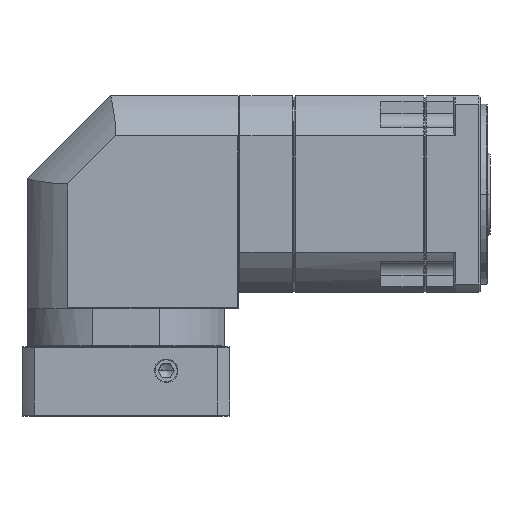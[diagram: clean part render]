
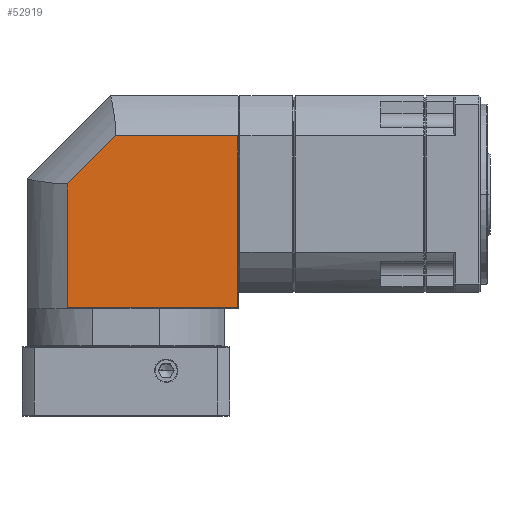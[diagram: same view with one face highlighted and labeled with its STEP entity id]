
A CAD part, top view. The second image highlights one B-rep face of the part: STEP entity #52919.
In plain terms, the highlighted planar face has unit normal (0, 0, 1).
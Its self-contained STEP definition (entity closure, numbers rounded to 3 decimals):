
#414 = LINE ( 'NONE', #106704, #6509 ) ;
#6509 = VECTOR ( 'NONE', #12856, 1000. ) ;
#9033 = LINE ( 'NONE', #35648, #84790 ) ;
#9234 = CARTESIAN_POINT ( 'NONE',  ( -56.248, -16.201, 312.56 ) ) ;
#9837 = ORIENTED_EDGE ( 'NONE', *, *, #25718, .T. ) ;
#12856 = DIRECTION ( 'NONE',  ( -1., 0., 0. ) ) ;
#19733 = VERTEX_POINT ( 'NONE', #134188 ) ;
#20529 = VERTEX_POINT ( 'NONE', #124669 ) ;
#25718 = EDGE_CURVE ( 'NONE', #35076, #20529, #414, .T. ) ;
#27689 = CARTESIAN_POINT ( 'NONE',  ( 66.467, 31.563, 312.56 ) ) ;
#35076 = VERTEX_POINT ( 'NONE', #27689 ) ;
#35648 = CARTESIAN_POINT ( 'NONE',  ( -9.133, -92.451, 312.56 ) ) ;
#48800 = DIRECTION ( 'NONE',  ( 1., 0., 0. ) ) ;
#50180 = PLANE ( 'NONE',  #101065 ) ;
#52919 = ADVANCED_FACE ( 'NONE', ( #121997 ), #50180, .T. ) ;
#53415 = ORIENTED_EDGE ( 'NONE', *, *, #113438, .T. ) ;
#54423 = VECTOR ( 'NONE', #97079, 1000. ) ;
#55805 = VERTEX_POINT ( 'NONE', #151789 ) ;
#63420 = DIRECTION ( 'NONE',  ( 0., 0., 1. ) ) ;
#66848 = DIRECTION ( 'NONE',  ( -0.707, -0.707, 0. ) ) ;
#68227 = ORIENTED_EDGE ( 'NONE', *, *, #77161, .T. ) ;
#68884 = LINE ( 'NONE', #162938, #54423 ) ;
#71955 = EDGE_LOOP ( 'NONE', ( #126541, #53415, #68227, #118086, #9837 ) ) ;
#72418 = VERTEX_POINT ( 'NONE', #133576 ) ;
#73293 = VECTOR ( 'NONE', #66848, 1000. ) ;
#76460 = LINE ( 'NONE', #9234, #158483 ) ;
#77161 = EDGE_CURVE ( 'NONE', #72418, #55805, #9033, .T. ) ;
#84790 = VECTOR ( 'NONE', #48800, 1000. ) ;
#89327 = DIRECTION ( 'NONE',  ( 0., -1., 0. ) ) ;
#97079 = DIRECTION ( 'NONE',  ( 0., 1., 0. ) ) ;
#97942 = LINE ( 'NONE', #119421, #73293 ) ;
#101065 = AXIS2_PLACEMENT_3D ( 'NONE', #116547, #63420, #102295 ) ;
#102295 = DIRECTION ( 'NONE',  ( 1., 0., 0. ) ) ;
#106704 = CARTESIAN_POINT ( 'NONE',  ( -9.133, 31.563, 312.56 ) ) ;
#113438 = EDGE_CURVE ( 'NONE', #19733, #72418, #76460, .T. ) ;
#116547 = CARTESIAN_POINT ( 'NONE',  ( -9.133, -16.201, 312.56 ) ) ;
#118086 = ORIENTED_EDGE ( 'NONE', *, *, #155680, .T. ) ;
#119421 = CARTESIAN_POINT ( 'NONE',  ( -21.575, 31.563, 312.56 ) ) ;
#121997 = FACE_OUTER_BOUND ( 'NONE', #71955, .T. ) ;
#124669 = CARTESIAN_POINT ( 'NONE',  ( -21.575, 31.563, 312.56 ) ) ;
#126541 = ORIENTED_EDGE ( 'NONE', *, *, #169960, .T. ) ;
#133576 = CARTESIAN_POINT ( 'NONE',  ( -56.248, -92.451, 312.56 ) ) ;
#134188 = CARTESIAN_POINT ( 'NONE',  ( -56.248, -3.109, 312.56 ) ) ;
#151789 = CARTESIAN_POINT ( 'NONE',  ( 66.467, -92.451, 312.56 ) ) ;
#155680 = EDGE_CURVE ( 'NONE', #55805, #35076, #68884, .T. ) ;
#158483 = VECTOR ( 'NONE', #89327, 1000. ) ;
#162938 = CARTESIAN_POINT ( 'NONE',  ( 66.467, -16.201, 312.56 ) ) ;
#169960 = EDGE_CURVE ( 'NONE', #20529, #19733, #97942, .T. ) ;
